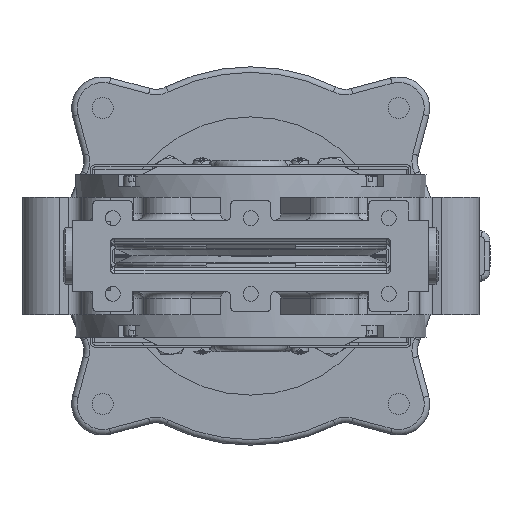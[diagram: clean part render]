
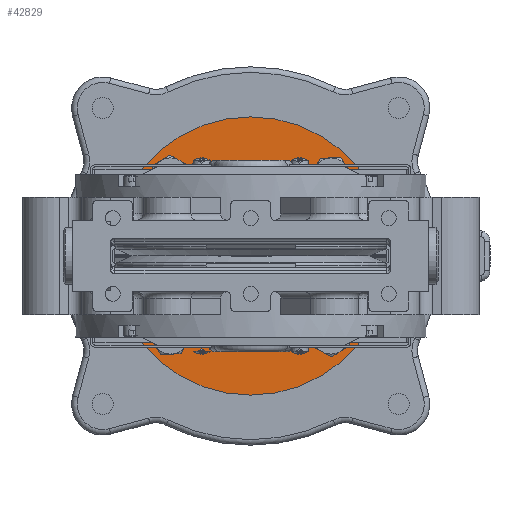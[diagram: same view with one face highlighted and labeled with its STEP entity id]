
A CAD part, front view. The second image highlights one B-rep face of the part: STEP entity #42829.
In plain terms, the highlighted planar face has unit normal (0, -1, 0).
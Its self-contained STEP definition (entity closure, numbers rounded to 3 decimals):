
#2916=FACE_BOUND('',#13171,.T.);
#2917=FACE_BOUND('',#13172,.T.);
#2918=FACE_BOUND('',#13173,.T.);
#2919=FACE_BOUND('',#13174,.T.);
#2920=FACE_BOUND('',#13175,.T.);
#8413=PLANE('',#47386);
#10455=FACE_OUTER_BOUND('',#13170,.T.);
#13170=EDGE_LOOP('',(#36203,#36204));
#13171=EDGE_LOOP('',(#36205,#36206));
#13172=EDGE_LOOP('',(#36207,#36208));
#13173=EDGE_LOOP('',(#36209,#36210));
#13174=EDGE_LOOP('',(#36211,#36212));
#13175=EDGE_LOOP('',(#36213,#36214));
#14692=CIRCLE('',#44838,7.315);
#14693=CIRCLE('',#44839,7.315);
#14707=CIRCLE('',#44870,7.315);
#14708=CIRCLE('',#44871,7.315);
#16095=CIRCLE('',#47384,29.);
#16096=CIRCLE('',#47385,29.);
#16097=CIRCLE('',#47387,62.5);
#16098=CIRCLE('',#47388,62.5);
#16099=CIRCLE('',#47389,7.315);
#16100=CIRCLE('',#47390,7.315);
#16101=CIRCLE('',#47391,7.315);
#16102=CIRCLE('',#47392,7.315);
#17997=VERTEX_POINT('',#68164);
#17998=VERTEX_POINT('',#68165);
#18025=VERTEX_POINT('',#68295);
#18026=VERTEX_POINT('',#68296);
#19809=VERTEX_POINT('',#84069);
#19810=VERTEX_POINT('',#84071);
#19811=VERTEX_POINT('',#84075);
#19812=VERTEX_POINT('',#84076);
#19813=VERTEX_POINT('',#84079);
#19814=VERTEX_POINT('',#84080);
#19815=VERTEX_POINT('',#84083);
#19816=VERTEX_POINT('',#84084);
#22634=EDGE_CURVE('',#17997,#17998,#14692,.T.);
#22635=EDGE_CURVE('',#17998,#17997,#14693,.T.);
#22676=EDGE_CURVE('',#18025,#18026,#14707,.T.);
#22677=EDGE_CURVE('',#18026,#18025,#14708,.T.);
#25566=EDGE_CURVE('',#19810,#19809,#16095,.T.);
#25567=EDGE_CURVE('',#19809,#19810,#16096,.T.);
#25568=EDGE_CURVE('',#19811,#19812,#16097,.T.);
#25569=EDGE_CURVE('',#19812,#19811,#16098,.T.);
#25570=EDGE_CURVE('',#19813,#19814,#16099,.T.);
#25571=EDGE_CURVE('',#19814,#19813,#16100,.T.);
#25572=EDGE_CURVE('',#19815,#19816,#16101,.T.);
#25573=EDGE_CURVE('',#19816,#19815,#16102,.T.);
#36203=ORIENTED_EDGE('',*,*,#25568,.F.);
#36204=ORIENTED_EDGE('',*,*,#25569,.F.);
#36205=ORIENTED_EDGE('',*,*,#25570,.T.);
#36206=ORIENTED_EDGE('',*,*,#25571,.T.);
#36207=ORIENTED_EDGE('',*,*,#22634,.T.);
#36208=ORIENTED_EDGE('',*,*,#22635,.T.);
#36209=ORIENTED_EDGE('',*,*,#25572,.T.);
#36210=ORIENTED_EDGE('',*,*,#25573,.T.);
#36211=ORIENTED_EDGE('',*,*,#22676,.T.);
#36212=ORIENTED_EDGE('',*,*,#22677,.T.);
#36213=ORIENTED_EDGE('',*,*,#25566,.T.);
#36214=ORIENTED_EDGE('',*,*,#25567,.T.);
#42829=ADVANCED_FACE('',(#10455,#2916,#2917,#2918,#2919,#2920),#8413,.T.);
#44838=AXIS2_PLACEMENT_3D('',#68166,#51740,#51741);
#44839=AXIS2_PLACEMENT_3D('',#68167,#51742,#51743);
#44870=AXIS2_PLACEMENT_3D('',#68297,#51818,#51819);
#44871=AXIS2_PLACEMENT_3D('',#68298,#51820,#51821);
#47384=AXIS2_PLACEMENT_3D('',#84072,#57747,#57748);
#47385=AXIS2_PLACEMENT_3D('',#84073,#57749,#57750);
#47386=AXIS2_PLACEMENT_3D('',#84074,#57751,#57752);
#47387=AXIS2_PLACEMENT_3D('',#84077,#57753,#57754);
#47388=AXIS2_PLACEMENT_3D('',#84078,#57755,#57756);
#47389=AXIS2_PLACEMENT_3D('',#84081,#57757,#57758);
#47390=AXIS2_PLACEMENT_3D('',#84082,#57759,#57760);
#47391=AXIS2_PLACEMENT_3D('',#84085,#57761,#57762);
#47392=AXIS2_PLACEMENT_3D('',#84086,#57763,#57764);
#51740=DIRECTION('center_axis',(0.,1.,0.));
#51741=DIRECTION('ref_axis',(0.029,0.,-1.));
#51742=DIRECTION('center_axis',(0.,1.,0.));
#51743=DIRECTION('ref_axis',(0.029,0.,-1.));
#51818=DIRECTION('center_axis',(0.,1.,0.));
#51819=DIRECTION('ref_axis',(-0.029,0.,1.));
#51820=DIRECTION('center_axis',(0.,1.,0.));
#51821=DIRECTION('ref_axis',(-0.029,0.,1.));
#57747=DIRECTION('center_axis',(0.,1.,0.));
#57748=DIRECTION('ref_axis',(0.,0.,
1.));
#57749=DIRECTION('center_axis',(0.,1.,0.));
#57750=DIRECTION('ref_axis',(0.,0.,
1.));
#57751=DIRECTION('center_axis',(0.,-1.,0.));
#57752=DIRECTION('ref_axis',(0.,0.,
-1.));
#57753=DIRECTION('center_axis',(0.,1.,0.));
#57754=DIRECTION('ref_axis',(0.,0.,
1.));
#57755=DIRECTION('center_axis',(0.,1.,0.));
#57756=DIRECTION('ref_axis',(0.,0.,
1.));
#57757=DIRECTION('center_axis',(0.,1.,0.));
#57758=DIRECTION('ref_axis',(-1.,0.,-0.029));
#57759=DIRECTION('center_axis',(0.,1.,0.));
#57760=DIRECTION('ref_axis',(-1.,0.,-0.029));
#57761=DIRECTION('center_axis',(0.,1.,0.));
#57762=DIRECTION('ref_axis',(1.,0.,0.029));
#57763=DIRECTION('center_axis',(0.,1.,0.));
#57764=DIRECTION('ref_axis',(1.,0.,0.029));
#68164=CARTESIAN_POINT('',(-35.854,531.5,28.75));
#68165=CARTESIAN_POINT('',(-36.271,531.5,43.374));
#68166=CARTESIAN_POINT('Origin',(-36.063,531.5,36.062));
#68167=CARTESIAN_POINT('Origin',(-36.063,531.5,36.062));
#68295=CARTESIAN_POINT('',(35.853,531.5,-28.75));
#68296=CARTESIAN_POINT('',(36.271,531.5,-43.374));
#68297=CARTESIAN_POINT('Origin',(36.062,531.5,-36.062));
#68298=CARTESIAN_POINT('Origin',(36.062,531.5,-36.062));
#84069=CARTESIAN_POINT('',(0.,531.5,-29.));
#84071=CARTESIAN_POINT('',(-29.,531.5,0.));
#84072=CARTESIAN_POINT('Origin',(0.,531.5,
0.));
#84073=CARTESIAN_POINT('Origin',(0.,531.5,
0.));
#84074=CARTESIAN_POINT('Origin',(-62.5,531.5,0.));
#84075=CARTESIAN_POINT('',(-62.5,531.5,0.));
#84076=CARTESIAN_POINT('',(62.5,531.5,0.));
#84077=CARTESIAN_POINT('Origin',(0.,531.5,
0.));
#84078=CARTESIAN_POINT('Origin',(0.,531.5,
0.));
#84079=CARTESIAN_POINT('',(28.75,531.5,35.854));
#84080=CARTESIAN_POINT('',(43.374,531.5,36.271));
#84081=CARTESIAN_POINT('Origin',(36.062,531.5,36.062));
#84082=CARTESIAN_POINT('Origin',(36.062,531.5,36.062));
#84083=CARTESIAN_POINT('',(-28.751,531.5,-35.854));
#84084=CARTESIAN_POINT('',(-43.375,531.5,-36.271));
#84085=CARTESIAN_POINT('Origin',(-36.063,531.5,-36.062));
#84086=CARTESIAN_POINT('Origin',(-36.063,531.5,-36.062));
